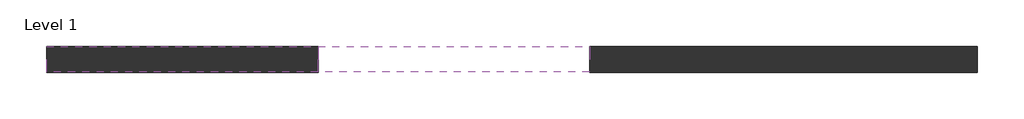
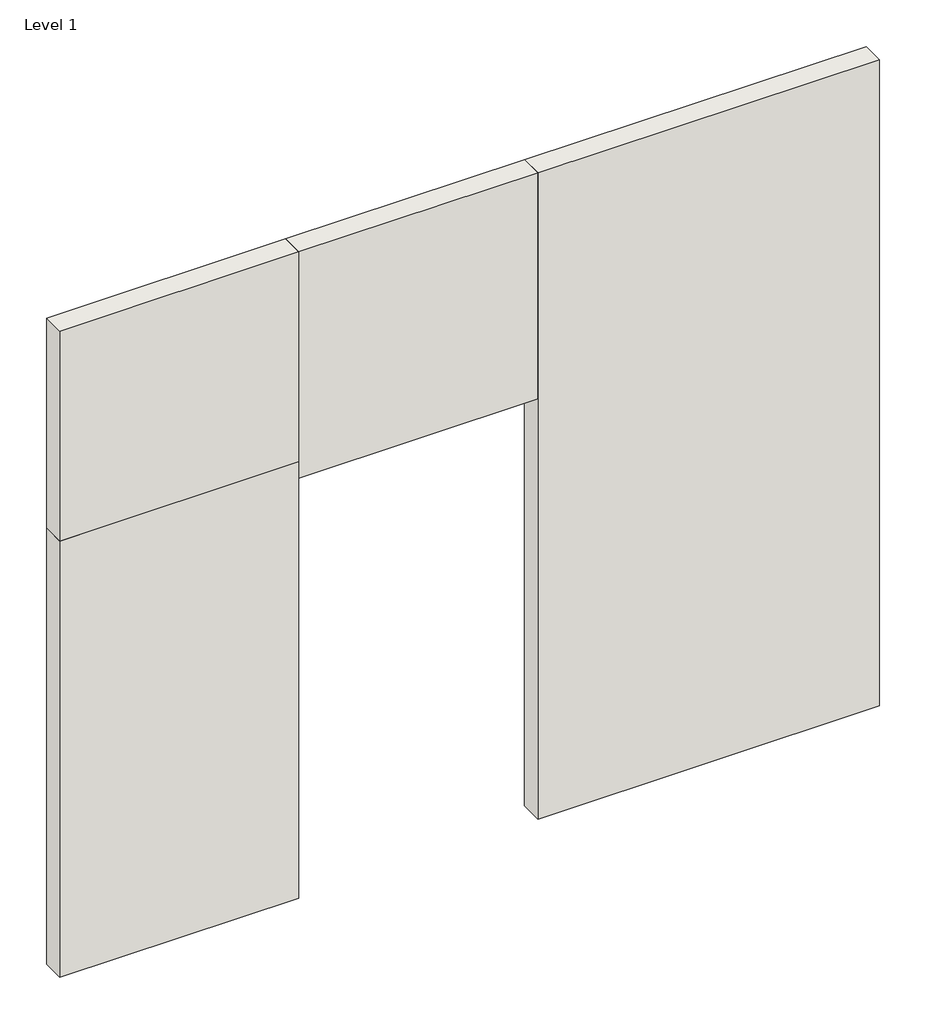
# One storey: 4 walls.
"""IFC4 building model written with IfcOpenShell, lengths in millimetres."""

import ifcopenshell
import ifcopenshell.guid

model = None  # the IFC model being written
_history = None  # IfcOwnerHistory: only IFC2X3 demands one
_inside = {}  # id of a spatial element -> (the spatial element, [elements in it])
_under = {}  # id of a project, library or spatial element -> (it, [spatial elements below it])
_declared = {}  # id of a project -> (the project, [libraries it declares])
_typed = {}  # id of a type object -> (the type object, [elements of that type])
_made_of = {}  # id of a material, layer set ... -> (it, [elements and type objects made of it])


def new_model(schema):
    """Start an empty IFC model of exactly this schema.

    Asked for "IFC4X3", IfcOpenShell would pick the latest addendum, in which some entities
    have other attributes; the version numbers below select the first issue.
    IFC2X3 requires an IfcOwnerHistory on every rooted entity: one is made here for all.
    """
    global model, _history
    if schema == "IFC4X3":
        model = ifcopenshell.file(schema_version=(4, 3, 0, 0))
    else:
        model = ifcopenshell.file(schema=schema)
    _inside.clear()
    _under.clear()
    _declared.clear()
    _typed.clear()
    _made_of.clear()
    _history = None
    if model.schema == "IFC2X3":
        org = make("IfcOrganization", Name="unknown")
        user = make(
            "IfcPersonAndOrganization",
            ThePerson=make("IfcPerson", FamilyName="unknown"),
            TheOrganization=org,
        )
        app = make(
            "IfcApplication",
            ApplicationDeveloper=org,
            Version="unknown",
            ApplicationFullName="unknown",
            ApplicationIdentifier="unknown",
        )
        _history = make(
            "IfcOwnerHistory",
            OwningUser=user,
            OwningApplication=app,
            ChangeAction="ADDED",
            CreationDate=0,
        )
    return model


def make(cls, **values):
    """One entity of the class cls with the attributes given. An attribute that is None is left unset."""
    return model.create_entity(
        cls, **{name: value for name, value in values.items() if value is not None}
    )


def rooted(cls, **values):
    """An entity with a GlobalId (a new one), such as an element, a storey or a relation."""
    return make(cls, GlobalId=ifcopenshell.guid.new(), OwnerHistory=_history, **values)


def si_unit(unit_type, name, prefix=None):
    """IfcSIUnit, for example si_unit("LENGTHUNIT", "METRE", prefix="MILLI")."""
    return make("IfcSIUnit", UnitType=unit_type, Prefix=prefix, Name=name)


def assignment(units):
    """IfcUnitAssignment: the units of a project."""
    return None if units is None else make("IfcUnitAssignment", Units=units)


def point(xyz):
    """IfcCartesianPoint."""
    return None if xyz is None else make("IfcCartesianPoint", Coordinates=xyz)


def direction(xyz):
    """IfcDirection."""
    return None if xyz is None else make("IfcDirection", DirectionRatios=xyz)


def frame(location, z_axis=None, x_axis=None):
    """IfcAxis2Placement3D, a coordinate frame: its origin and axes. An axis left out is left unset."""
    return make(
        "IfcAxis2Placement3D",
        Location=point(location),
        Axis=direction(z_axis),
        RefDirection=direction(x_axis),
    )


def origin():
    """The frame at (0, 0, 0) with its axes left unset."""
    return frame((0.0, 0.0, 0.0))


def place(relative_to, where):
    """IfcLocalPlacement: puts the frame where relative to a parent placement (None: the world)."""
    return make(
        "IfcLocalPlacement", PlacementRelTo=relative_to, RelativePlacement=where
    )


def context(
    kind, dimensions, precision=None, world=None, true_north=None, identifier=None
):
    """IfcGeometricRepresentationContext, for example the 3D "Model" context."""
    return make(
        "IfcGeometricRepresentationContext",
        ContextIdentifier=identifier,
        ContextType=kind,
        CoordinateSpaceDimension=dimensions,
        Precision=precision,
        WorldCoordinateSystem=world,
        TrueNorth=true_north,
    )


def project(units=None, contexts=None):
    """IfcProject with its units and contexts."""
    return rooted(
        "IfcProject",
        Name="project",
        RepresentationContexts=contexts,
        UnitsInContext=assignment(units),
    )


def spatial(cls, under=None, at=None, **own):
    """A site, building, storey or space (cls), placed at a placement, below another one or the project."""
    s = rooted(cls, ObjectPlacement=at, **own)
    if under is not None:
        _under.setdefault(under.id(), (under, []))[1].append(s)
    return s


def polyline(points):
    """IfcPolyline through the points."""
    return make("IfcPolyline", Points=[point(p) for p in points])


def outline(outer, holes=None, kind="AREA"):
    """IfcArbitraryClosedProfileDef: a profile drawn as a closed curve; with holes, ...WithVoids."""
    if holes is None:
        return make("IfcArbitraryClosedProfileDef", ProfileType=kind, OuterCurve=outer)
    return make(
        "IfcArbitraryProfileDefWithVoids",
        ProfileType=kind,
        OuterCurve=outer,
        InnerCurves=holes,
    )


def extrude(swept, where, along, depth):
    """IfcExtrudedAreaSolid: the profile swept, set in the frame where, extruded along a direction by depth."""
    return make(
        "IfcExtrudedAreaSolid",
        SweptArea=swept,
        Position=where,
        ExtrudedDirection=direction(along),
        Depth=depth,
    )


def faces_of(points, faces, orient=None, outer=None):
    """IfcFace entities. A face is a list of loops; a loop is a list of indices into points, from 0.

    orient and outer hold one flag for each loop. By default every Orientation is true, the
    first loop of a face is its IfcFaceOuterBound and the others are IfcFaceBound.
    """
    made = []
    for i, loops in enumerate(faces):
        bounds = []
        for j, loop in enumerate(loops):
            is_outer = j == 0 if outer is None else outer[i][j]
            bounds.append(
                make(
                    "IfcFaceOuterBound" if is_outer else "IfcFaceBound",
                    Bound=make("IfcPolyLoop", Polygon=[points[k] for k in loop]),
                    Orientation=True if orient is None else orient[i][j],
                )
            )
        made.append(make("IfcFace", Bounds=bounds))
    return made


def faceted_brep(points, faces, orient=None, outer=None, voids=None):
    """IfcFacetedBrep: a solid bounded by flat faces; with voids (closed shells), ...WithVoids."""
    shared = [point(p) for p in points]
    hull = make("IfcClosedShell", CfsFaces=faces_of(shared, faces, orient, outer))
    if voids is None:
        return make("IfcFacetedBrep", Outer=hull)
    return make(
        "IfcFacetedBrepWithVoids",
        Outer=hull,
        Voids=[
            make(cls, CfsFaces=faces_of(shared, fs, o, b)) for cls, fs, o, b in voids
        ],
    )


def shape(context_of_items, identifier, shape_type, items):
    """IfcShapeRepresentation: the items that make up one representation, for example the "Body"."""
    return make(
        "IfcShapeRepresentation",
        ContextOfItems=context_of_items,
        RepresentationIdentifier=identifier,
        RepresentationType=shape_type,
        Items=items,
    )


def made_of(thing, what):
    """Note that an element or type object is made of a material, layer set ...; save() writes the relation."""
    if what is not None:
        _made_of.setdefault(what.id(), (what, []))[1].append(thing)
    return thing


def element(
    cls,
    number,
    at=None,
    inside=None,
    cuts=None,
    type_object=None,
    material=None,
    context=None,
    identifier="Body",
    shape_type=None,
    held_by="IfcProductDefinitionShape",
    body=None,
    shapes=None,
    **own,
):
    """One element of the class cls, such as IfcWall. Its Tag is "e" and its number.

    at: its placement. inside: the storey or other place that contains it. cuts: it is an
    opening in that element (IfcRelVoidsElement). A single representation is given by context,
    identifier, shape_type and body (its items); several are given by shapes. held_by: the class
    of the entity that holds the representations. save() writes the other relations.
    """
    e = rooted(cls, Tag="e%d" % number, ObjectPlacement=at, **own)
    if body is not None:
        shapes = [shape(context, identifier, shape_type, body)]
    if shapes is not None:
        e.Representation = make(held_by, Representations=shapes)
    if inside is not None:
        _inside.setdefault(inside.id(), (inside, []))[1].append(e)
    if cuts is not None:
        rooted(
            "IfcRelVoidsElement", RelatingBuildingElement=cuts, RelatedOpeningElement=e
        )
    if type_object is not None:
        _typed.setdefault(type_object.id(), (type_object, []))[1].append(e)
    return made_of(e, material)


def aggregate(whole, parts):
    """IfcRelAggregates: a whole, such as a stair, and the parts it consists of."""
    return rooted("IfcRelAggregates", RelatingObject=whole, RelatedObjects=parts)


def save(model, path):
    """Write the relations noted so far, then the file.

    IfcRelAggregates (storeys below a building ...), IfcRelContainedInSpatialStructure (elements
    in a storey), IfcRelDefinesByType, IfcRelAssociatesMaterial and IfcRelDeclares: one each for
    every whole, place, type object, material and project.
    """
    for whole, parts in _under.values():
        aggregate(whole, parts)
    for where, things in _inside.values():
        rooted(
            "IfcRelContainedInSpatialStructure",
            RelatedElements=things,
            RelatingStructure=where,
        )
    for kind, things in _typed.values():
        rooted("IfcRelDefinesByType", RelatedObjects=things, RelatingType=kind)
    for what, things in _made_of.values():
        rooted("IfcRelAssociatesMaterial", RelatedObjects=things, RelatingMaterial=what)
    for by, libraries in _declared.values():
        rooted("IfcRelDeclares", RelatingContext=by, RelatedDefinitions=libraries)
    model.write(path)


model = new_model("IFC4")

# Units and contexts
model_context = context("Model", 3, world=origin())
ifc_project = project(units=[si_unit("LENGTHUNIT", "METRE", prefix="MILLI")], contexts=[model_context])

# Site, building, storey
site = spatial("IfcSite", under=ifc_project)
building = spatial("IfcBuilding", under=site)
storey = spatial("IfcBuildingStorey", under=building, Name="Level 1", Elevation=0.0)

# Walls
placement = place(None, origin())
element("IfcWall", 1, ObjectType="Generic - 8\"", at=placement, inside=storey, context=model_context, shape_type="Brep", body=[
    faceted_brep([(-12187.6601538, 4126.4263176, 0.0), (-10054.0601538, 4126.4263176, 0.0), (-10054.0601538, 4126.4263176, 3962.4), (-10054.0601538, 4126.4263176, 4114.8), (-12187.6601538, 4126.4263176, 4114.8), (-12187.6601538, 4329.6263176, 0.0), (-12187.6601538, 4329.6263176, 4114.8), (-10054.0601538, 4329.6263176, 4114.8), (-10054.0601538, 4329.6263176, 3962.4), (-10054.0601538, 4329.6263176, 0.0)], [[[0, 1, 2, 3, 4]], [[5, 6, 7, 8, 9]], [[1, 0, 5, 9]], [[3, 2, 1, 9, 8, 7]], [[4, 3, 7, 6]], [[0, 4, 6, 5]]]),
])
element("IfcWall", 2, ObjectType="Generic - 8\"", at=placement, inside=storey, context=model_context, shape_type="Brep", body=[
    faceted_brep([(-7920.4601538, 4126.4263176, 0.0), (-4872.4601538, 4126.4263176, 0.0), (-4872.4601538, 4126.4263176, 6096.0), (-7920.4601538, 4126.4263176, 6096.0), (-7920.4601538, 4126.4263176, 3962.4), (-7920.4601538, 4329.6263176, 0.0), (-7920.4601538, 4329.6263176, 3962.4), (-7920.4601538, 4329.6263176, 6096.0), (-4872.4601538, 4329.6263176, 6096.0), (-4872.4601538, 4329.6263176, 0.0)], [[[0, 1, 2, 3, 4]], [[5, 6, 7, 8, 9]], [[1, 0, 5, 9]], [[2, 1, 9, 8]], [[3, 2, 8, 7]], [[0, 4, 3, 7, 6, 5]]]),
])
element("IfcWall", 3, ObjectType="Generic - 8\"", at=placement, inside=storey, context=model_context, shape_type="SweptSolid", body=[
    extrude(outline(polyline([(-10054.0601538, 4126.4263176), (-12187.6601538, 4126.4263176), (-12187.6601538, 4329.6263176), (-10054.0601538, 4329.6263176), (-10054.0601538, 4126.4263176)])), frame((0.0, 0.0, 4114.8), z_axis=(0.0, 0.0, 1.0), x_axis=(1.0, 0.0, 0.0)), (0.0, 0.0, 1.0), 1981.2),
])
element("IfcWall", 4, ObjectType="Generic - 8\"", at=placement, inside=storey, context=model_context, shape_type="Brep", body=[
    faceted_brep([(-10054.0601538, 4126.4263176, 6096.0), (-7920.4601538, 4126.4263176, 6096.0), (-7920.4601538, 4329.6263176, 6096.0), (-10054.0601538, 4329.6263176, 6096.0), (-10054.0601538, 4126.4263176, 4114.8), (-10054.0601538, 4126.4263176, 3962.4), (-7920.4601538, 4126.4263176, 3962.4), (-10054.0601538, 4329.6263176, 3962.4), (-10054.0601538, 4329.6263176, 4114.8), (-7920.4601538, 4329.6263176, 3962.4)], [[[0, 1, 2, 3]], [[0, 4, 5, 6, 1]], [[7, 8, 3, 2, 9]], [[6, 5, 7, 9]], [[1, 6, 9, 2]], [[0, 3, 8, 7, 5, 4]]]),
])

save(model, "model.ifc")
